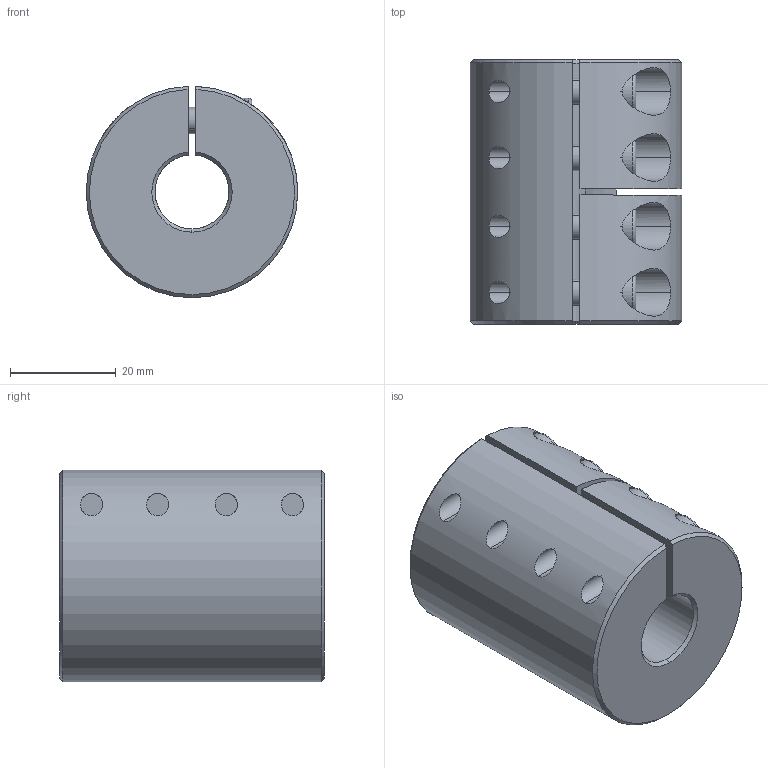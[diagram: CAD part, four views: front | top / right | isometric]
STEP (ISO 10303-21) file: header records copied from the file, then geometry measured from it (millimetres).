
FILE_DESCRIPTION (( 'STEP AP214' ), '1' );
FILE_NAME ('LL-B-D40L50-14-14½¨Ä£.STEP', '2022-07-22T00:23:41', ( '' ), ( '' ), 'SwSTEP 2.0', 'SolidWorks 2022', '' );
FILE_SCHEMA (( 'AUTOMOTIVE_DESIGN' ));
Length unit declared in the file: millimetre
Products named in the file (1): LL-B-D40L50-14-14膘耀
Bounding box: 40 x 50 x 39.99 mm (x, y, z)
Volume: 52101.2 mm3; surface area: 15233.9 mm2
Topology: 1 solids, 1 shells, 173 faces, 436 edges, 273 vertices
Faces by surface type: plane 83, cylinder 68, cone 14, torus 8
Entity records: 5707 total; most frequent: CARTESIAN_POINT 1459, DIRECTION 923, ORIENTED_EDGE 856, EDGE_CURVE 428, AXIS2_PLACEMENT_3D 361, VERTEX_POINT 273, EDGE_LOOP 205, LINE 201
